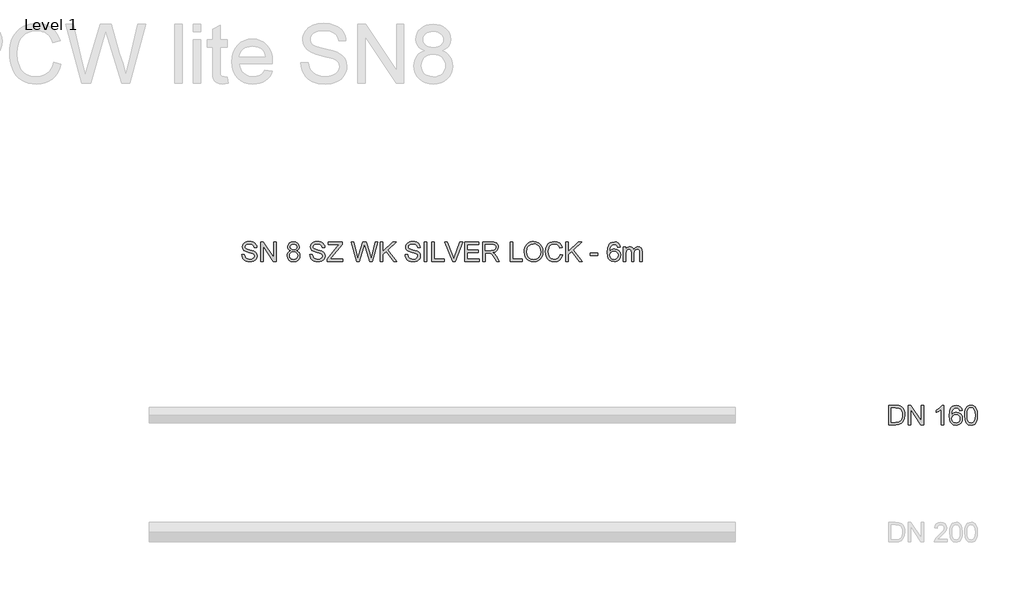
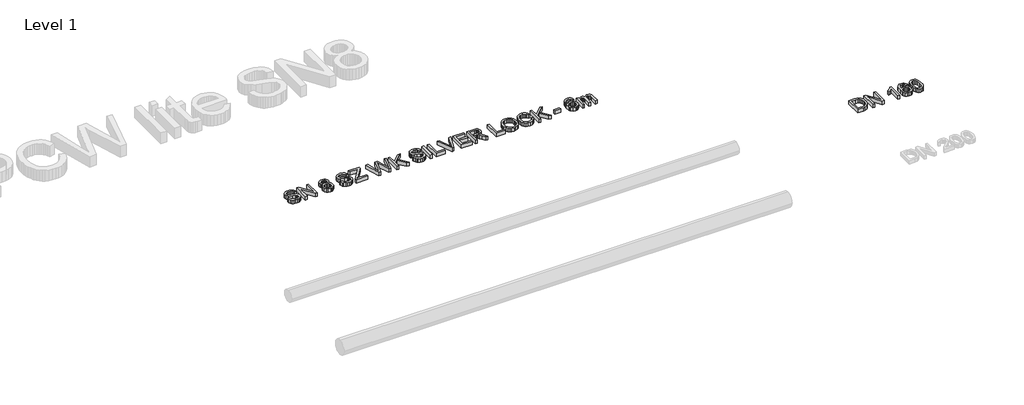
# One storey, part 8 of 8: 2 proxies.
"""IFC4 building model written with IfcOpenShell, lengths in millimetres."""

from ifc_helpers import new_model, si_unit, origin, origin_with_axes, place, context, project, spatial, polyline, outline, extrude, element, save

model = new_model("IFC4")

# Units and contexts
model_context = context("Model", 3, world=origin())
ifc_project = project(units=[si_unit("LENGTHUNIT", "METRE", prefix="MILLI")], contexts=[model_context])

# Site, building, storey
site = spatial("IfcSite", under=ifc_project)
building = spatial("IfcBuilding", under=site)
storey = spatial("IfcBuildingStorey", under=building, Name="Level 1", Elevation=0.0)

# Proxies
placement = place(None, origin())
element("IfcBuildingElementProxy", 1, Name="200mm Arial", ObjectType="200mm Arial", at=placement, inside=storey, context=model_context, shape_type="SweptSolid", body=[
    extrude(outline(polyline([(-2460.6923074, 486.050427), (-2460.6923074, 686.9630473), (-2391.3833395, 686.9630473), (-2355.5271077, 684.0690423), (-2339.5119782, 678.4894987), (-2325.9984462, 669.697119), (-2312.1047695, 654.393228), (-2302.2087438, 635.3614662), (-2296.2858437, 612.9697154), (-2294.3115437, 587.5858577), (-2299.6580953, 547.0452618), (-2313.3923565, 517.7863805), (-2331.7374053, 499.563959), (-2355.7478369, 489.4839923), (-2388.0478761, 486.050427), (-2460.6923074, 486.050427)]), holes=[polyline([(-2435.5782298, 511.1645046), (-2391.1380848, 511.1645046), (-2358.8135202, 514.7942736), (-2340.1741658, 525.0459185), (-2331.4492311, 535.9168315), (-2324.8948002, 549.9883178), (-2320.792916, 567.3216911), (-2319.4256212, 587.9782652), (-2322.1050284, 615.3486856), (-2330.14325, 635.5576699), (-2342.0197071, 649.4390838), (-2356.2138207, 657.8267933), (-2391.8247979, 661.8489698), (-2435.5782298, 661.8489698), (-2435.5782298, 511.1645046)])]), origin_with_axes(), (0.0, 0.0, 1.0), 50.0),
    extrude(outline(polyline([(-2259.7796871, 486.050427), (-2259.7796871, 686.9630473), (-2232.899776, 686.9630473), (-2127.93078, 527.7927708), (-2127.93078, 686.9630473), (-2102.8167025, 686.9630473), (-2102.8167025, 486.050427), (-2129.6966136, 486.050427), (-2234.6656095, 645.2697546), (-2234.6656095, 486.050427), (-2259.7796871, 486.050427)])), origin_with_axes(), (0.0, 0.0, 1.0), 50.0),
    extrude(outline(polyline([(-1895.6255628, 486.050427), (-1920.7396403, 486.050427), (-1920.7396403, 642.6210042), (-1944.5293427, 625.6739069), (-1970.9677954, 612.9942408), (-1970.9677954, 636.7348923), (-1934.1550704, 660.230289), (-1920.684458, 673.8051347), (-1911.8123706, 686.9630473), (-1895.6255628, 686.9630473), (-1895.6255628, 486.050427)])), origin_with_axes(), (0.0, 0.0, 1.0), 50.0),
    extrude(outline(polyline([(-1707.2699812, 633.5956326), (-1732.3840588, 630.4563729), (-1741.8999397, 651.4011211), (-1753.2920188, 659.2370076), (-1767.0630682, 661.8489698), (-1789.7245991, 655.7666542), (-1799.1607723, 646.1588027), (-1806.8679001, 632.933445), (-1812.0734303, 614.2266455), (-1814.0048108, 588.1744689), (-1803.9309755, 599.9282987), (-1791.8583147, 608.2117749), (-1778.4612787, 613.1229995), (-1764.4143178, 614.7600744), (-1741.2132267, 610.2841768), (-1721.7400064, 596.856484), (-1708.5330428, 576.3409314), (-1704.1307216, 550.6014545), (-1706.2031235, 532.6181563), (-1712.4203292, 515.9469705), (-1722.2673039, 501.8080392), (-1735.2290129, 491.4215042), (-1750.7168449, 485.0387516), (-1768.1421887, 482.9111674), (-1796.6346492, 488.5520246), (-1819.326837, 505.4745964), (-1827.9858594, 518.5834582), (-1834.1708755, 535.3466144), (-1839.1188883, 579.8358103), (-1833.6251839, 629.855499), (-1826.7580533, 648.9332461), (-1817.1440705, 664.0562618), (-1806.723813, 674.0779805), (-1794.6419551, 681.236351), (-1765.4934384, 686.9630473), (-1743.4573068, 683.4191175), (-1725.8112338, 672.7873278), (-1713.4503988, 655.9015442), (-1707.2699812, 633.5956326)]), holes=[polyline([(-1814.0048108, 550.9938619), (-1808.1922753, 529.2397733), (-1792.7412315, 513.445373), (-1770.104226, 508.0252449), (-1753.5311421, 510.8334108), (-1740.5019881, 519.2579085), (-1732.0590964, 532.5016603), (-1729.2447991, 549.7675886), (-1732.0223082, 566.3406725), (-1740.3548353, 578.977419), (-1753.6047185, 586.9788524), (-1771.1342956, 589.6459969), (-1787.682854, 586.9788524), (-1801.5213484, 578.977419), (-1810.8839452, 566.6472408), (-1814.0048108, 550.9938619)])]), origin_with_axes(), (0.0, 0.0, 1.0), 50.0),
    extrude(outline(polyline([(-1682.1559037, 584.8880564), (-1680.3103624, 617.0470742), (-1674.7737383, 642.6945806), (-1665.6012139, 662.2229832), (-1652.8479714, 676.0246894), (-1636.4220403, 684.2284578), (-1616.2314502, 686.9630473), (-1600.7558809, 685.3443666), (-1586.8989924, 680.4883242), (-1575.3107096, 672.5849927), (-1566.6409572, 661.8244443), (-1554.8687334, 632.0995791), (-1550.3069966, 584.8880564), (-1552.1341439, 552.9129797), (-1557.6155856, 527.3267869), (-1566.7329277, 507.7799902), (-1579.4677761, 493.9231017), (-1595.9304954, 485.664151), (-1616.2314502, 482.9111674), (-1642.3265464, 487.6936333), (-1662.1431232, 502.0410311), (-1670.8987147, 517.1701782), (-1677.1527086, 536.0210647), (-1682.1559037, 584.8880564)]), holes=[polyline([(-1657.0418262, 584.9371073), (-1654.0987702, 545.4327124), (-1645.2696023, 522.5688464), (-1632.1239524, 511.6611453), (-1616.2314502, 508.0252449), (-1600.338948, 511.673408), (-1587.193298, 522.6178974), (-1578.3641301, 545.4940261), (-1575.4210742, 584.9371073), (-1578.2660283, 623.5524541), (-1586.8008906, 646.5941297), (-1599.9220151, 658.0352598), (-1616.5257558, 661.8489698), (-1632.2465797, 658.4889809), (-1644.8771949, 648.4090143), (-1654.0006683, 623.9325988), (-1657.0418262, 584.9371073)])]), origin_with_axes(), (0.0, 0.0, 1.0), 50.0),
])
element("IfcBuildingElementProxy", 2, Name="200mm Arial", ObjectType="200mm Arial", at=placement, inside=storey, context=model_context, shape_type="SweptSolid", body=[
    extrude(outline(polyline([(-9087.3125937, 2231.0128426), (-9062.1985162, 2231.0128426), (-9054.1051123, 2205.8742396), (-9045.9749202, 2196.983758), (-9034.3375864, 2189.9817374), (-9020.112816, 2185.4383947), (-9004.2203138, 2183.9239472), (-8977.9780648, 2188.5102094), (-8961.0309675, 2201.1162991), (-8955.4636867, 2217.9652945), (-8959.633016, 2233.6370675), (-8965.9851117, 2239.8358791), (-8976.7027405, 2245.0414093), (-9013.2702108, 2254.6308667), (-9052.6335843, 2267.0162272), (-9065.1354408, 2275.4652503), (-9073.9952655, 2285.7046325), (-9079.2743722, 2297.5136446), (-9081.0340744, 2310.6715573), (-9078.8574392, 2325.3807057), (-9072.3275338, 2339.0965728), (-9061.6160364, 2350.7216438), (-9046.8946252, 2359.1584042), (-9029.2240267, 2364.2903581), (-9009.6649673, 2366.0010093), (-8988.4749644, 2364.2106503), (-8969.9337118, 2358.8395732), (-8954.7033972, 2349.9981425), (-8943.4462082, 2337.796723), (-8936.3215602, 2322.9956041), (-8933.4888688, 2306.3550752), (-8958.6029464, 2306.3550752), (-8963.213734, 2321.3401351), (-8972.8277168, 2332.1558658), (-8987.849565, 2338.7041653), (-9008.6839486, 2340.8869318), (-9030.0088416, 2338.7286908), (-9044.6382823, 2332.2539676), (-9053.0995682, 2322.725824), (-9055.9199968, 2311.4073212), (-9053.9211713, 2301.7565502), (-9047.9246948, 2293.9942401), (-9033.7489752, 2287.0535332), (-9006.9181151, 2279.9656734), (-8962.47797, 2267.3595837), (-8948.1612291, 2258.2483729), (-8938.1732329, 2247.0034466), (-8932.3055151, 2233.7474321), (-8930.3496091, 2218.6029566), (-8932.5998207, 2203.121256), (-8939.3504553, 2188.5592603), (-8950.3256015, 2176.026747), (-8965.2493477, 2166.6334934), (-8983.1958577, 2160.7657756), (-9003.2392951, 2158.8098696), (-9027.8444692, 2160.9190598), (-9048.0963731, 2167.2466301), (-9064.2279985, 2177.8171061), (-9076.4723376, 2192.6550132), (-9084.3327496, 2210.7302819), (-9087.3125937, 2231.0128426)])), origin_with_axes(), (0.0, 0.0, 1.0), 50.0),
    extrude(outline(polyline([(-8892.6784928, 2161.9491293), (-8892.6784928, 2362.8617496), (-8865.7985817, 2362.8617496), (-8760.8295858, 2203.6914731), (-8760.8295858, 2362.8617496), (-8735.7155082, 2362.8617496), (-8735.7155082, 2161.9491293), (-8762.5954193, 2161.9491293), (-8867.5644153, 2321.1684569), (-8867.5644153, 2161.9491293), (-8892.6784928, 2161.9491293)])), origin_with_axes(), (0.0, 0.0, 1.0), 50.0),
    extrude(outline(polyline([(-8586.1101635, 2272.6080335), (-8599.5562504, 2279.2299094), (-8608.9924236, 2288.2062301), (-8614.5658358, 2299.3530545), (-8616.4236399, 2312.4864418), (-8612.376938, 2332.1190776), (-8600.2368321, 2348.3426736), (-8581.3644858, 2359.2319806), (-8557.1210623, 2362.8617496), (-8532.730486, 2359.1461415), (-8513.612885, 2347.999317), (-8501.25205, 2331.5182037), (-8497.1317716, 2311.7997287), (-8498.9650502, 2299.0894058), (-8504.4648861, 2288.1326537), (-8513.6925928, 2279.2115153), (-8526.709484, 2272.6080335), (-8511.2523089, 2264.6433883), (-8500.0012512, 2252.914084), (-8493.140252, 2237.9842064), (-8490.8532522, 2220.4178411), (-8495.3904635, 2196.4074096), (-8509.0020973, 2176.5663073), (-8530.020422, 2163.2489791), (-8556.7777058, 2158.8098696), (-8583.5349895, 2163.2673732), (-8604.5533142, 2176.6398837), (-8618.164948, 2196.6710583), (-8622.7021593, 2221.1045542), (-8620.3231891, 2239.3515011), (-8613.1862784, 2254.3610865), (-8601.6593092, 2265.6182756), (-8586.1101635, 2272.6080335)]), holes=[polyline([(-8591.3095624, 2311.7506778), (-8589.0838763, 2300.7877943), (-8582.4068181, 2292.0322028), (-8571.4745915, 2286.2932437), (-8556.4834002, 2284.3802573), (-8541.8416968, 2286.280981), (-8531.075017, 2291.9831519), (-8524.4531411, 2300.4444378), (-8522.2458492, 2310.6225063), (-8524.5267175, 2321.186851), (-8531.3693226, 2329.9240483), (-8542.2831552, 2335.7917662), (-8556.7777058, 2337.7476721), (-8571.3642269, 2335.8346857), (-8582.2596653, 2330.0957266), (-8589.0470881, 2321.6834916), (-8591.3095624, 2311.7506778)]), polyline([(-8597.5880818, 2221.987471), (-8593.394227, 2203.0783364), (-8587.5878229, 2194.9665384), (-8578.5563199, 2188.9271423), (-8556.581502, 2183.9239472), (-8539.487252, 2186.5543035), (-8526.6604331, 2194.4453722), (-8518.6406056, 2206.3954057), (-8515.9673298, 2221.202656), (-8518.7264447, 2236.2612924), (-8527.0037896, 2248.4749746), (-8540.1249141, 2256.5683785), (-8557.4153679, 2259.2661798), (-8574.2704946, 2256.6051667), (-8586.9685548, 2248.6221274), (-8594.9332, 2236.6414371), (-8597.5880818, 2221.987471)])]), origin_with_axes(), (0.0, 0.0, 1.0), 50.0),
    extrude(outline(polyline([(-8390.3969421, 2231.0128426), (-8365.2828645, 2231.0128426), (-8357.1894607, 2205.8742396), (-8349.0592686, 2196.983758), (-8337.4219348, 2189.9817374), (-8323.1971643, 2185.4383947), (-8307.3046621, 2183.9239472), (-8281.0624131, 2188.5102094), (-8264.1153159, 2201.1162991), (-8258.548035, 2217.9652945), (-8262.7173643, 2233.6370675), (-8269.0694601, 2239.8358791), (-8279.7870889, 2245.0414093), (-8316.3545592, 2254.6308667), (-8355.7179327, 2267.0162272), (-8368.2197891, 2275.4652503), (-8377.0796139, 2285.7046325), (-8382.3587205, 2297.5136446), (-8384.1184227, 2310.6715573), (-8381.9417876, 2325.3807057), (-8375.4118821, 2339.0965728), (-8364.7003847, 2350.7216438), (-8349.9789735, 2359.1584042), (-8332.308375, 2364.2903581), (-8312.7493156, 2366.0010093), (-8291.5593127, 2364.2106503), (-8273.0180602, 2358.8395732), (-8257.7877456, 2349.9981425), (-8246.5305565, 2337.796723), (-8239.4059085, 2322.9956041), (-8236.5732172, 2306.3550752), (-8261.6872947, 2306.3550752), (-8266.2980824, 2321.3401351), (-8275.9120652, 2332.1558658), (-8290.9339133, 2338.7041653), (-8311.768297, 2340.8869318), (-8333.09319, 2338.7286908), (-8347.7226306, 2332.2539676), (-8356.1839165, 2322.725824), (-8359.0043452, 2311.4073212), (-8357.0055197, 2301.7565502), (-8351.0090431, 2293.9942401), (-8336.8333236, 2287.0535332), (-8310.0024634, 2279.9656734), (-8265.5623184, 2267.3595837), (-8251.2455774, 2258.2483729), (-8241.2575812, 2247.0034466), (-8235.3898634, 2233.7474321), (-8233.4339575, 2218.6029566), (-8235.684169, 2203.121256), (-8242.4348036, 2188.5592603), (-8253.4099498, 2176.026747), (-8268.3336961, 2166.6334934), (-8286.2802061, 2160.7657756), (-8306.3236435, 2158.8098696), (-8330.9288176, 2160.9190598), (-8351.1807214, 2167.2466301), (-8367.3123469, 2177.8171061), (-8379.556686, 2192.6550132), (-8387.4170979, 2210.7302819), (-8390.3969421, 2231.0128426)])), origin_with_axes(), (0.0, 0.0, 1.0), 50.0),
    extrude(outline(polyline([(-8211.4591396, 2161.9491293), (-8211.4591396, 2187.9951746), (-8108.6974356, 2313.810817), (-8089.1751644, 2337.7476721), (-8198.9021009, 2337.7476721), (-8198.9021009, 2362.8617496), (-8057.6354147, 2362.8617496), (-8057.6354147, 2337.7476721), (-8170.1092034, 2200.061704), (-8180.7042048, 2187.0632069), (-8054.496155, 2187.0632069), (-8054.496155, 2161.9491293), (-8211.4591396, 2161.9491293)])), origin_with_axes(), (0.0, 0.0, 1.0), 50.0),
    extrude(outline(polyline([(-7911.8069918, 2161.9491293), (-7966.5968836, 2362.8617496), (-7940.6979912, 2362.8617496), (-7908.9129868, 2230.8166388), (-7899.1028003, 2190.0553138), (-7888.6059007, 2226.1077493), (-7848.7765433, 2362.8617496), (-7811.4487835, 2362.8617496), (-7782.5087333, 2263.7298147), (-7760.9753738, 2190.0553138), (-7751.4594929, 2229.6394165), (-7719.3801829, 2362.8617496), (-7693.4812904, 2362.8617496), (-7748.3202332, 2161.9491293), (-7775.1510933, 2161.9491293), (-7823.3191092, 2316.9500766), (-7830.039087, 2338.581538), (-7837.5929307, 2312.5354927), (-7881.4935154, 2161.9491293), (-7911.8069918, 2161.9491293)])), origin_with_axes(), (0.0, 0.0, 1.0), 50.0),
    extrude(outline(polyline([(-7668.3672129, 2161.9491293), (-7668.3672129, 2362.8617496), (-7643.2531353, 2362.8617496), (-7643.2531353, 2264.5146296), (-7540.2461767, 2362.8617496), (-7505.1257089, 2362.8617496), (-7591.6025032, 2280.259979), (-7501.9864492, 2161.9491293), (-7532.6923331, 2161.9491293), (-7609.4079918, 2263.2883563), (-7643.2531353, 2231.0128426), (-7643.2531353, 2161.9491293), (-7668.3672129, 2161.9491293)])), origin_with_axes(), (0.0, 0.0, 1.0), 50.0),
    extrude(outline(polyline([(-7414.0871778, 2231.0128426), (-7388.9731003, 2231.0128426), (-7380.8796964, 2205.8742396), (-7372.7495043, 2196.983758), (-7361.1121705, 2189.9817374), (-7346.8874, 2185.4383947), (-7330.9948978, 2183.9239472), (-7304.7526488, 2188.5102094), (-7287.8055516, 2201.1162991), (-7282.2382707, 2217.9652945), (-7286.4076, 2233.6370675), (-7292.7596958, 2239.8358791), (-7303.4773246, 2245.0414093), (-7340.0447949, 2254.6308667), (-7379.4081684, 2267.0162272), (-7391.9100249, 2275.4652503), (-7400.7698496, 2285.7046325), (-7406.0489562, 2297.5136446), (-7407.8086584, 2310.6715573), (-7405.6320233, 2325.3807057), (-7399.1021179, 2339.0965728), (-7388.3906205, 2350.7216438), (-7373.6692093, 2359.1584042), (-7355.9986108, 2364.2903581), (-7336.4395514, 2366.0010093), (-7315.2495484, 2364.2106503), (-7296.7082959, 2358.8395732), (-7281.4779813, 2349.9981425), (-7270.2207922, 2337.796723), (-7263.0961443, 2322.9956041), (-7260.2634529, 2306.3550752), (-7285.3775304, 2306.3550752), (-7289.9883181, 2321.3401351), (-7299.6023009, 2332.1558658), (-7314.6241491, 2338.7041653), (-7335.4585327, 2340.8869318), (-7356.7834257, 2338.7286908), (-7371.4128664, 2332.2539676), (-7379.8741523, 2322.725824), (-7382.6945809, 2311.4073212), (-7380.6957554, 2301.7565502), (-7374.6992789, 2293.9942401), (-7360.5235593, 2287.0535332), (-7333.6926991, 2279.9656734), (-7289.2525541, 2267.3595837), (-7274.9358131, 2258.2483729), (-7264.947817, 2247.0034466), (-7259.0800991, 2233.7474321), (-7257.1241932, 2218.6029566), (-7259.3744047, 2203.121256), (-7266.1250394, 2188.5592603), (-7277.1001855, 2176.026747), (-7292.0239318, 2166.6334934), (-7309.9704418, 2160.7657756), (-7330.0138792, 2158.8098696), (-7354.6190533, 2160.9190598), (-7374.8709571, 2167.2466301), (-7391.0025826, 2177.8171061), (-7403.2469217, 2192.6550132), (-7411.1073337, 2210.7302819), (-7414.0871778, 2231.0128426)])), origin_with_axes(), (0.0, 0.0, 1.0), 50.0),
    extrude(outline(polyline([(-7216.3138172, 2161.9491293), (-7216.3138172, 2362.8617496), (-7191.1997397, 2362.8617496), (-7191.1997397, 2161.9491293), (-7216.3138172, 2161.9491293)])), origin_with_axes(), (0.0, 0.0, 1.0), 50.0),
    extrude(outline(polyline([(-7140.9715846, 2161.9491293), (-7140.9715846, 2362.8617496), (-7115.8575071, 2362.8617496), (-7115.8575071, 2187.0632069), (-7015.4011969, 2187.0632069), (-7015.4011969, 2161.9491293), (-7140.9715846, 2161.9491293)])), origin_with_axes(), (0.0, 0.0, 1.0), 50.0),
    extrude(outline(polyline([(-6927.7962311, 2161.9491293), (-7007.7492514, 2362.8617496), (-6980.8693403, 2362.8617496), (-6927.3547727, 2218.1124473), (-6916.5145166, 2185.493577), (-6905.8214133, 2218.1124473), (-6852.1596929, 2362.8617496), (-6825.2797818, 2362.8617496), (-6901.8482877, 2161.9491293), (-6927.7962311, 2161.9491293)])), origin_with_axes(), (0.0, 0.0, 1.0), 50.0),
    extrude(outline(polyline([(-6801.9315378, 2161.9491293), (-6801.9315378, 2362.8617496), (-6657.525592, 2362.8617496), (-6657.525592, 2337.7476721), (-6776.8174603, 2337.7476721), (-6776.8174603, 2278.101738), (-6663.8041114, 2278.101738), (-6663.8041114, 2252.9876604), (-6776.8174603, 2252.9876604), (-6776.8174603, 2187.0632069), (-6654.3863323, 2187.0632069), (-6654.3863323, 2161.9491293), (-6801.9315378, 2161.9491293)])), origin_with_axes(), (0.0, 0.0, 1.0), 50.0),
    extrude(outline(polyline([(-6616.715216, 2161.9491293), (-6616.715216, 2362.8617496), (-6530.1403198, 2362.8617496), (-6506.8717836, 2361.5067176), (-6489.9430805, 2357.4416216), (-6477.5699827, 2349.9368289), (-6467.9682626, 2338.2627069), (-6461.8062392, 2323.7865504), (-6459.7522314, 2307.8756541), (-6463.1551398, 2288.0836028), (-6473.3638652, 2271.6760658), (-6490.6849758, 2259.6463245), (-6515.42504, 2252.9876604), (-6501.1512186, 2242.2455062), (-6480.7950815, 2216.3956646), (-6447.2932945, 2161.9491293), (-6476.4785994, 2161.9491293), (-6502.6227466, 2203.5933712), (-6521.5073557, 2231.1599954), (-6534.7756329, 2244.183018), (-6546.7195351, 2248.9654839), (-6561.2876621, 2249.8484007), (-6591.6011385, 2249.8484007), (-6591.6011385, 2161.9491293), (-6616.715216, 2161.9491293)]), holes=[polyline([(-6591.6011385, 2274.9624783), (-6535.3887696, 2274.9624783), (-6506.7184994, 2278.5186709), (-6497.2884576, 2283.1417213), (-6490.4335898, 2289.8984873), (-6484.8663089, 2306.9436864), (-6487.5211907, 2319.1941568), (-6495.4858359, 2329.065657), (-6509.1894402, 2335.5771683), (-6529.0611993, 2337.7476721), (-6591.6011385, 2337.7476721), (-6591.6011385, 2274.9624783)])]), origin_with_axes(), (0.0, 0.0, 1.0), 50.0),
    extrude(outline(polyline([(-6337.3211034, 2161.9491293), (-6337.3211034, 2362.8617496), (-6312.2070259, 2362.8617496), (-6312.2070259, 2187.0632069), (-6211.7507157, 2187.0632069), (-6211.7507157, 2161.9491293), (-6337.3211034, 2161.9491293)])), origin_with_axes(), (0.0, 0.0, 1.0), 50.0),
    extrude(outline(polyline([(-6192.9151576, 2259.7566891), (-6191.2412945, 2283.3225966), (-6186.2197052, 2304.1845714), (-6177.8503899, 2322.3426136), (-6166.1333483, 2337.796723), (-6151.7706221, 2350.1360983), (-6135.4642526, 2358.9499378), (-6117.21424, 2364.2382414), (-6097.0205841, 2366.0010093), (-6070.6679706, 2362.6900714), (-6047.0376837, 2352.7572575), (-6027.4173107, 2336.9015435), (-6013.0944383, 2315.8219052), (-6004.3388468, 2290.5361494), (-6001.4203163, 2262.062083), (-6004.492131, 2233.2078718), (-6013.707575, 2207.5664967), (-6028.5577448, 2186.4500702), (-6048.5337372, 2171.1707047), (-6071.9616889, 2161.9000784), (-6097.1677369, 2158.8098696), (-6123.9250207, 2162.2250408), (-6147.6901976, 2172.4705544), (-6167.2615198, 2188.620574), (-6181.4372393, 2209.7492632), (-6190.045678, 2234.0601318), (-6192.9151576, 2259.7566891)]), holes=[polyline([(-6167.80108, 2259.5114345), (-6162.7794908, 2228.0820493), (-6147.7147231, 2204.1329315), (-6125.0715863, 2188.9761933), (-6097.3148897, 2183.9239472), (-6069.153523, 2189.0252442), (-6046.473598, 2204.3291352), (-6037.7501962, 2215.6016527), (-6031.5191949, 2229.0140171), (-6026.5343939, 2262.2582867), (-6028.6681094, 2284.4906219), (-6035.0692562, 2303.7063248), (-6045.5722871, 2319.4210174), (-6060.0116554, 2331.1503217), (-6077.4308679, 2338.4527793), (-6096.8734314, 2340.8869318), (-6123.8882325, 2336.1964364), (-6146.8563318, 2322.12495), (-6156.0196591, 2311.1758622), (-6162.564893, 2297.0905803), (-6167.80108, 2259.5114345)])]), origin_with_axes(), (0.0, 0.0, 1.0), 50.0),
    extrude(outline(polyline([(-5825.6217736, 2233.3672873), (-5800.507696, 2226.8925642), (-5812.0959789, 2197.6275515), (-5830.2816122, 2176.2474762), (-5854.1694164, 2163.1692713), (-5882.864212, 2158.8098696), (-5911.9943347, 2162.1085449), (-5935.1279808, 2172.0045705), (-5952.859893, 2188.1545901), (-5965.7848137, 2210.2152471), (-5973.6758825, 2236.1509278), (-5976.3062388, 2263.9260184), (-5973.332526, 2293.221688), (-5964.4113876, 2318.5197065), (-5950.0088075, 2339.016865), (-5930.5907695, 2353.9099544), (-5907.5613566, 2362.9782456), (-5882.3246518, 2366.0010093), (-5854.7886844, 2362.0891975), (-5832.0229203, 2350.3537618), (-5814.7385979, 2331.5182037), (-5803.6469557, 2306.3060242), (-5828.7610333, 2300.3218105), (-5837.4675738, 2318.6362025), (-5849.362425, 2331.1993726), (-5864.5927396, 2338.465042), (-5883.3056704, 2340.8869318), (-5904.8758181, 2338.2013932), (-5922.5954675, 2330.1447775), (-5936.0415544, 2317.5632133), (-5944.7910145, 2301.3028291), (-5949.5918746, 2282.9209921), (-5951.1921613, 2263.9750693), (-5949.297569, 2240.7739782), (-5943.6137922, 2220.7121467), (-5933.926233, 2204.5559957), (-5920.0202935, 2193.0719461), (-5903.3491078, 2186.2109469), (-5885.3658096, 2183.9239472), (-5864.4026672, 2187.0386814), (-5846.9344038, 2196.3828841), (-5833.7458343, 2211.8584534), (-5825.6217736, 2233.3672873)])), origin_with_axes(), (0.0, 0.0, 1.0), 50.0),
    extrude(outline(polyline([(-5765.9758394, 2161.9491293), (-5765.9758394, 2362.8617496), (-5740.8617619, 2362.8617496), (-5740.8617619, 2264.5146296), (-5637.8548032, 2362.8617496), (-5602.7343354, 2362.8617496), (-5689.2111298, 2280.259979), (-5599.5950757, 2161.9491293), (-5630.3009596, 2161.9491293), (-5707.0166183, 2263.2883563), (-5740.8617619, 2231.0128426), (-5740.8617619, 2161.9491293), (-5765.9758394, 2161.9491293)])), origin_with_axes(), (0.0, 0.0, 1.0), 50.0),
    extrude(outline(polyline([(-5517.9743237, 2221.5950635), (-5517.9743237, 2246.709141), (-5439.4928314, 2246.709141), (-5439.4928314, 2221.5950635), (-5517.9743237, 2221.5950635)])), origin_with_axes(), (0.0, 0.0, 1.0), 50.0),
    extrude(outline(polyline([(-5210.3268739, 2309.4943349), (-5235.4409514, 2306.3550752), (-5244.9568324, 2327.2998234), (-5256.3489115, 2335.1357099), (-5270.1199609, 2337.7476721), (-5292.7814918, 2331.6653565), (-5302.2176649, 2322.057505), (-5309.9247927, 2308.8321473), (-5315.130323, 2290.1253478), (-5317.0617034, 2264.0731712), (-5306.9878681, 2275.8270009), (-5294.9152073, 2284.1104772), (-5281.5181713, 2289.0217018), (-5267.4712105, 2290.6587767), (-5244.2701193, 2286.1828791), (-5224.7968991, 2272.7551863), (-5211.5899354, 2252.2396337), (-5207.1876142, 2226.5001568), (-5209.2600161, 2208.5168586), (-5215.4772218, 2191.8456728), (-5225.3241966, 2177.7067415), (-5238.2859055, 2167.3202065), (-5253.7737375, 2160.9374539), (-5271.1990814, 2158.8098696), (-5299.6915419, 2164.4507269), (-5322.3837296, 2181.3732987), (-5331.0427521, 2194.4821604), (-5337.2277681, 2211.2453167), (-5342.175781, 2255.7345126), (-5336.6820765, 2305.7542013), (-5329.8149459, 2324.8319484), (-5320.2009631, 2339.9549641), (-5309.7807056, 2349.9766828), (-5297.6988478, 2357.1350532), (-5268.550331, 2362.8617496), (-5246.5141995, 2359.3178198), (-5228.8681265, 2348.6860301), (-5216.5072914, 2331.8002465), (-5210.3268739, 2309.4943349)]), holes=[polyline([(-5317.0617034, 2226.8925642), (-5311.2491679, 2205.1384756), (-5295.7981241, 2189.3440752), (-5273.1611187, 2183.9239472), (-5256.5880348, 2186.7321131), (-5243.5588808, 2195.1566108), (-5235.115989, 2208.4003626), (-5232.3016918, 2225.6662909), (-5235.0792008, 2242.2393748), (-5243.411728, 2254.8761213), (-5256.6616112, 2262.8775547), (-5274.1911883, 2265.5446992), (-5290.7397467, 2262.8775547), (-5304.5782411, 2254.8761213), (-5313.9408378, 2242.5459431), (-5317.0617034, 2226.8925642)])]), origin_with_axes(), (0.0, 0.0, 1.0), 50.0),
    extrude(outline(polyline([(-5178.934277, 2161.9491293), (-5178.934277, 2309.4943349), (-5153.8201994, 2309.4943349), (-5153.8201994, 2285.2141232), (-5146.2663558, 2296.367079), (-5136.5542711, 2305.1042764), (-5125.0150392, 2310.751265), (-5111.9797539, 2312.6335946), (-5098.0125008, 2310.7144768), (-5086.8166254, 2304.9571236), (-5078.4534414, 2295.7416796), (-5072.9842624, 2283.4482896), (-5063.8301321, 2296.2168605), (-5053.3884148, 2305.3372683), (-5041.6591105, 2310.809513), (-5028.6422192, 2312.6335946), (-5009.7637415, 2309.5985681), (-4995.8026198, 2300.4934887), (-4987.175787, 2285.0731018), (-4984.3001761, 2263.0921525), (-4984.3001761, 2161.9491293), (-5009.4142536, 2161.9491293), (-5009.4142536, 2252.3009474), (-5011.7441729, 2273.2702211), (-5020.1809333, 2283.5954424), (-5034.5283311, 2287.519517), (-5048.1338336, 2285.0056567), (-5059.2254758, 2277.4640758), (-5066.6015098, 2264.3797395), (-5069.0601878, 2245.237613), (-5069.0601878, 2161.9491293), (-5094.1742653, 2161.9491293), (-5094.1742653, 2255.0968505), (-5095.6273992, 2269.2970955), (-5099.9868008, 2279.4261131), (-5107.6571404, 2285.4961661), (-5119.0430882, 2287.519517), (-5137.6333917, 2282.1239144), (-5144.9910316, 2275.4775131), (-5149.9942267, 2266.3295141), (-5153.8201994, 2236.3593942), (-5153.8201994, 2161.9491293), (-5178.934277, 2161.9491293)])), origin_with_axes(), (0.0, 0.0, 1.0), 50.0),
])

save(model, "model.ifc")
